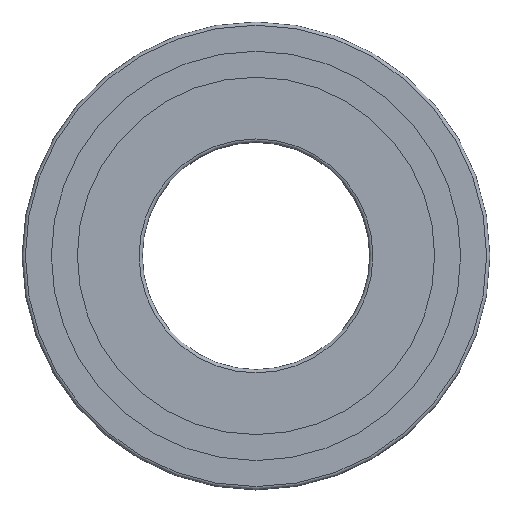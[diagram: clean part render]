
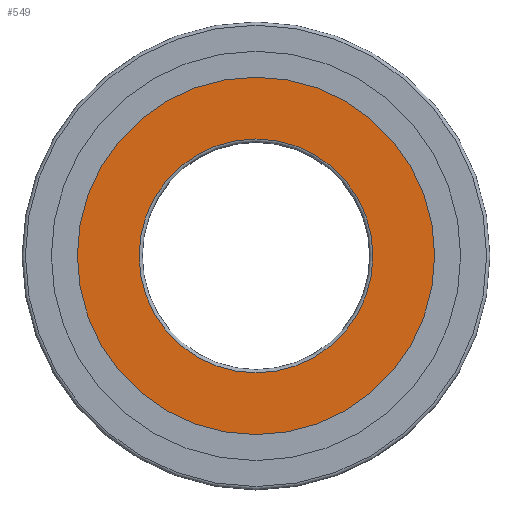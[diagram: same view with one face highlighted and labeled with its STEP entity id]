
A CAD part, top view. The second image highlights one B-rep face of the part: STEP entity #549.
In plain terms, the highlighted planar face has unit normal (0, 0, 1).
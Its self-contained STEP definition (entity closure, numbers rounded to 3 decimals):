
#495=PLANE('',#1391);
#549=ADVANCED_FACE('',(#657,#658),#495,.T.);
#657=FACE_BOUND('',#729,.T.);
#658=FACE_BOUND('',#730,.T.);
#729=EDGE_LOOP('',(#841));
#730=EDGE_LOOP('',(#842));
#841=ORIENTED_EDGE('',*,*,#1183,.T.);
#842=ORIENTED_EDGE('',*,*,#1180,.F.);
#1084=VERTEX_POINT('',#1882);
#1087=VERTEX_POINT('',#1890);
#1180=EDGE_CURVE('',#1084,#1084,#1308,.T.);
#1183=EDGE_CURVE('',#1087,#1087,#1311,.T.);
#1308=CIRCLE('',#1385,27.5);
#1311=CIRCLE('',#1390,18.);
#1385=AXIS2_PLACEMENT_3D('',#1881,#1552,#1553);
#1390=AXIS2_PLACEMENT_3D('',#1889,#1562,#1563);
#1391=AXIS2_PLACEMENT_3D('',#1891,#1564,#1565);
#1552=DIRECTION('',(0.,0.,-1.));
#1553=DIRECTION('',(1.,0.,0.));
#1562=DIRECTION('',(0.,0.,-1.));
#1563=DIRECTION('',(1.,0.,0.));
#1564=DIRECTION('',(0.,0.,1.));
#1565=DIRECTION('',(1.,0.,0.));
#1881=CARTESIAN_POINT('',(0.,0.,17.));
#1882=CARTESIAN_POINT('',(27.5,0.,17.));
#1889=CARTESIAN_POINT('',(0.,0.,17.));
#1890=CARTESIAN_POINT('',(18.,0.,17.));
#1891=CARTESIAN_POINT('',(0.,0.,17.));
